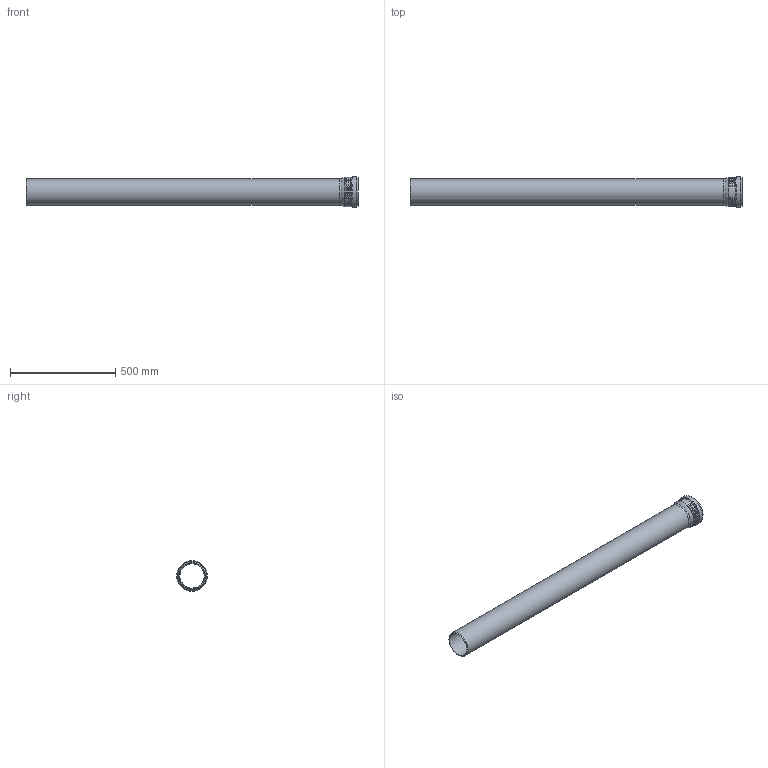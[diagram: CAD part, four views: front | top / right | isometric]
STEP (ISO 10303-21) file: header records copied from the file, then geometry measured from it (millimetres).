
FILE_DESCRIPTION(/* description */ (''),/* implementation_level */ '2;1');
FILE_NAME(/* name */ 'H:\Geberit-Teile\Export\PP_Rohr\stp\393605.stp',/* time_stamp */ '2017-02-13T16:09:43+01:00',/* author */ ('seihe2'),/* organization */ (''),/* preprocessor_version */ 'ST-DEVELOPER v15.2',/* originating_system */ 'Autodesk Inventor 2014',/* authorisation */ '');
FILE_SCHEMA (('AUTOMOTIVE_DESIGN { 1 0 10303 214 3 1 1 }'));
Length unit declared in the file: millimetre
Products named in the file (1): 393605
Bounding box: 1573.9 x 146.35 x 146.35 mm (x, y, z)
Volume: 3001484.7 mm3; surface area: 1222044.4 mm2
Topology: 2 solids, 2 shells, 38 faces, 81 edges, 56 vertices
Faces by surface type: torus 17, cylinder 10, plane 8, cone 2, bspline 1
Full cylindrical faces by diameter (mm): 115.2 x2, 125.2 x2, 126.2 x1, 129.2 x1, 135.2 x1, 137.75 x1, 138.2 x1, 146.35 x1
Entity records: 2345 total; most frequent: CARTESIAN_POINT 1566, DIRECTION 130, ORIENTED_EDGE 124, EDGE_LOOP 69, AXIS2_PLACEMENT_3D 65, EDGE_CURVE 62, VERTEX_POINT 55, STYLED_ITEM 40
